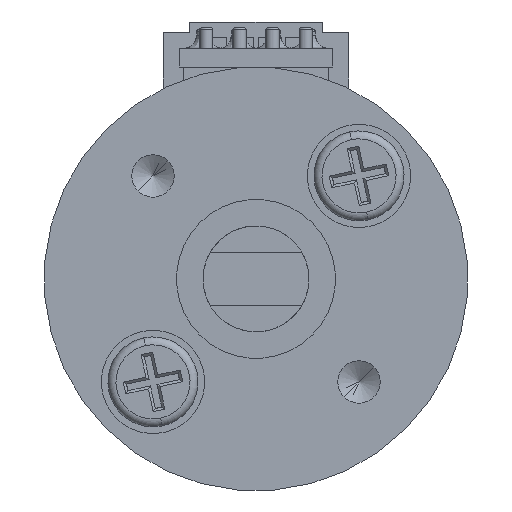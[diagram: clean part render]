
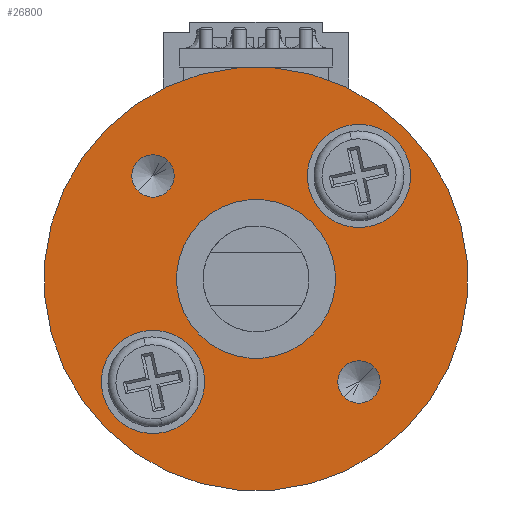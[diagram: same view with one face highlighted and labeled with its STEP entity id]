
A CAD part, front view. The second image highlights one B-rep face of the part: STEP entity #26800.
In plain terms, the highlighted planar face has unit normal (0, -1, 0) as drawn and (1, 0, 0) by its records, which use the part's own axes.
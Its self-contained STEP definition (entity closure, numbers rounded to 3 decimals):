
#216 = DIRECTION ( 'NONE',  ( 0., 0., 1. ) ) ;
#447 = AXIS2_PLACEMENT_3D ( 'NONE', #7499, #16101, #36538 ) ;
#537 = VERTEX_POINT ( 'NONE', #33426 ) ;
#1749 = AXIS2_PLACEMENT_3D ( 'NONE', #23756, #32169, #23380 ) ;
#2068 = CIRCLE ( 'NONE', #1749, 1.95 ) ;
#2591 = EDGE_CURVE ( 'NONE', #537, #20912, #27508, .T. ) ;
#2623 = CARTESIAN_POINT ( 'NONE',  ( 17., -5.5, 0. ) ) ;
#2993 = CARTESIAN_POINT ( 'NONE',  ( 17., 0., 0. ) ) ;
#3374 = CIRCLE ( 'NONE', #29271, 8. ) ;
#3643 = DIRECTION ( 'NONE',  ( -1., 0., 0. ) ) ;
#3937 = ORIENTED_EDGE ( 'NONE', *, *, #19361, .F. ) ;
#3976 = ORIENTED_EDGE ( 'NONE', *, *, #25486, .F. ) ;
#4756 = VERTEX_POINT ( 'NONE', #10022 ) ;
#4859 = CIRCLE ( 'NONE', #30937, 1.95 ) ;
#4982 = VERTEX_POINT ( 'NONE', #25140 ) ;
#5236 = ORIENTED_EDGE ( 'NONE', *, *, #9201, .F. ) ;
#5308 = DIRECTION ( 'NONE',  ( 0., 0., -1. ) ) ;
#5586 = DIRECTION ( 'NONE',  ( 0., 0., 1. ) ) ;
#6032 = EDGE_CURVE ( 'NONE', #20912, #537, #29797, .T. ) ;
#6276 = CARTESIAN_POINT ( 'NONE',  ( 17., 0., 0. ) ) ;
#6390 = EDGE_LOOP ( 'NONE', ( #3976, #34612 ) ) ;
#6692 = ORIENTED_EDGE ( 'NONE', *, *, #22138, .F. ) ;
#7309 = DIRECTION ( 'NONE',  ( 0., 0., -1. ) ) ;
#7499 = CARTESIAN_POINT ( 'NONE',  ( 17., 5.5, 0. ) ) ;
#7708 = VERTEX_POINT ( 'NONE', #14761 ) ;
#7992 = FACE_BOUND ( 'NONE', #6390, .T. ) ;
#8091 = EDGE_LOOP ( 'NONE', ( #3937, #22944 ) ) ;
#8185 = AXIS2_PLACEMENT_3D ( 'NONE', #31185, #13722, #5586 ) ;
#8198 = DIRECTION ( 'NONE',  ( 1., 0., 0. ) ) ;
#8499 = CARTESIAN_POINT ( 'NONE',  ( 17., 0., 3. ) ) ;
#8905 = DIRECTION ( 'NONE',  ( 0., 0., -1. ) ) ;
#8914 = CIRCLE ( 'NONE', #28028, 1.95 ) ;
#9201 = EDGE_CURVE ( 'NONE', #31883, #29953, #2068, .T. ) ;
#9202 = EDGE_LOOP ( 'NONE', ( #20274, #19888 ) ) ;
#9618 = AXIS2_PLACEMENT_3D ( 'NONE', #2993, #17548, #216 ) ;
#9707 = CIRCLE ( 'NONE', #25642, 0.8 ) ;
#9883 = DIRECTION ( 'NONE',  ( 1., 0., 0. ) ) ;
#9976 = AXIS2_PLACEMENT_3D ( 'NONE', #14806, #15180, #32666 ) ;
#10022 = CARTESIAN_POINT ( 'NONE',  ( 17., -5.5, 0.8 ) ) ;
#11876 = DIRECTION ( 'NONE',  ( -1., 0., 0. ) ) ;
#12006 = EDGE_CURVE ( 'NONE', #31088, #22052, #34598, .T. ) ;
#12266 = EDGE_LOOP ( 'NONE', ( #31640, #14888 ) ) ;
#12818 = CARTESIAN_POINT ( 'NONE',  ( 17., 0., -3.55 ) ) ;
#13341 = ORIENTED_EDGE ( 'NONE', *, *, #21810, .F. ) ;
#13722 = DIRECTION ( 'NONE',  ( -1., 0., 0. ) ) ;
#13842 = CARTESIAN_POINT ( 'NONE',  ( 17., 0., -7.45 ) ) ;
#14666 = AXIS2_PLACEMENT_3D ( 'NONE', #6276, #3643, #26679 ) ;
#14761 = CARTESIAN_POINT ( 'NONE',  ( 17., 0., 8. ) ) ;
#14806 = CARTESIAN_POINT ( 'NONE',  ( 17., 5.5, 0. ) ) ;
#14888 = ORIENTED_EDGE ( 'NONE', *, *, #23036, .F. ) ;
#14961 = DIRECTION ( 'NONE',  ( 0., 0., 1. ) ) ;
#15074 = DIRECTION ( 'NONE',  ( -1., 0., 0. ) ) ;
#15180 = DIRECTION ( 'NONE',  ( 1., 0., 0. ) ) ;
#15787 = CARTESIAN_POINT ( 'NONE',  ( 17., 0., -5.5 ) ) ;
#16101 = DIRECTION ( 'NONE',  ( 1., 0., 0. ) ) ;
#17038 = FACE_BOUND ( 'NONE', #9202, .T. ) ;
#17548 = DIRECTION ( 'NONE',  ( -1., 0., 0. ) ) ;
#17556 = DIRECTION ( 'NONE',  ( 0., 0., -1. ) ) ;
#18867 = VERTEX_POINT ( 'NONE', #33265 ) ;
#19361 = EDGE_CURVE ( 'NONE', #7708, #4982, #34734, .T. ) ;
#19836 = AXIS2_PLACEMENT_3D ( 'NONE', #35632, #15074, #14961 ) ;
#19888 = ORIENTED_EDGE ( 'NONE', *, *, #2591, .T. ) ;
#20274 = ORIENTED_EDGE ( 'NONE', *, *, #6032, .T. ) ;
#20669 = CARTESIAN_POINT ( 'NONE',  ( 17., -5.5, 0. ) ) ;
#20690 = VERTEX_POINT ( 'NONE', #12818 ) ;
#20912 = VERTEX_POINT ( 'NONE', #8499 ) ;
#21283 = CARTESIAN_POINT ( 'NONE',  ( 17., 5.5, 0.8 ) ) ;
#21440 = EDGE_CURVE ( 'NONE', #20690, #34926, #4859, .T. ) ;
#21810 = EDGE_CURVE ( 'NONE', #29953, #31883, #8914, .T. ) ;
#21907 = AXIS2_PLACEMENT_3D ( 'NONE', #2623, #31590, #17556 ) ;
#22052 = VERTEX_POINT ( 'NONE', #27315 ) ;
#22138 = EDGE_CURVE ( 'NONE', #34926, #20690, #27063, .T. ) ;
#22406 = EDGE_CURVE ( 'NONE', #4982, #7708, #3374, .T. ) ;
#22529 = FACE_BOUND ( 'NONE', #31365, .T. ) ;
#22944 = ORIENTED_EDGE ( 'NONE', *, *, #22406, .F. ) ;
#23036 = EDGE_CURVE ( 'NONE', #4756, #18867, #9707, .T. ) ;
#23380 = DIRECTION ( 'NONE',  ( 0., 0., -1. ) ) ;
#23437 = CARTESIAN_POINT ( 'NONE',  ( 17., 0., 0. ) ) ;
#23756 = CARTESIAN_POINT ( 'NONE',  ( 17., 0., 5.5 ) ) ;
#24142 = PLANE ( 'NONE',  #19836 ) ;
#24838 = FACE_BOUND ( 'NONE', #12266, .T. ) ;
#25140 = CARTESIAN_POINT ( 'NONE',  ( 17., 0., -8. ) ) ;
#25186 = EDGE_LOOP ( 'NONE', ( #13341, #5236 ) ) ;
#25486 = EDGE_CURVE ( 'NONE', #22052, #31088, #26354, .T. ) ;
#25642 = AXIS2_PLACEMENT_3D ( 'NONE', #20669, #32175, #8905 ) ;
#25902 = CARTESIAN_POINT ( 'NONE',  ( 17., 0., 3.55 ) ) ;
#25903 = DIRECTION ( 'NONE',  ( 0., 0., -1. ) ) ;
#26354 = CIRCLE ( 'NONE', #447, 0.8 ) ;
#26674 = CARTESIAN_POINT ( 'NONE',  ( 17., 0., 7.45 ) ) ;
#26679 = DIRECTION ( 'NONE',  ( 0., 0., 1. ) ) ;
#26800 = ADVANCED_FACE ( 'NONE', ( #24838, #7992, #37170, #36691, #17038, #22529 ), #24142, .F. ) ;
#27063 = CIRCLE ( 'NONE', #35625, 1.95 ) ;
#27067 = CIRCLE ( 'NONE', #21907, 0.8 ) ;
#27315 = CARTESIAN_POINT ( 'NONE',  ( 17., 5.5, -0.8 ) ) ;
#27508 = CIRCLE ( 'NONE', #14666, 3. ) ;
#27584 = ORIENTED_EDGE ( 'NONE', *, *, #21440, .F. ) ;
#28028 = AXIS2_PLACEMENT_3D ( 'NONE', #34207, #37150, #5308 ) ;
#29271 = AXIS2_PLACEMENT_3D ( 'NONE', #23437, #11876, #32222 ) ;
#29797 = CIRCLE ( 'NONE', #9618, 3. ) ;
#29892 = EDGE_CURVE ( 'NONE', #18867, #4756, #27067, .T. ) ;
#29953 = VERTEX_POINT ( 'NONE', #25902 ) ;
#30937 = AXIS2_PLACEMENT_3D ( 'NONE', #37602, #8198, #25903 ) ;
#31088 = VERTEX_POINT ( 'NONE', #21283 ) ;
#31185 = CARTESIAN_POINT ( 'NONE',  ( 17., 0., 0. ) ) ;
#31365 = EDGE_LOOP ( 'NONE', ( #6692, #27584 ) ) ;
#31590 = DIRECTION ( 'NONE',  ( 1., 0., 0. ) ) ;
#31640 = ORIENTED_EDGE ( 'NONE', *, *, #29892, .F. ) ;
#31883 = VERTEX_POINT ( 'NONE', #26674 ) ;
#32169 = DIRECTION ( 'NONE',  ( 1., 0., 0. ) ) ;
#32175 = DIRECTION ( 'NONE',  ( 1., 0., 0. ) ) ;
#32222 = DIRECTION ( 'NONE',  ( 0., 0., 1. ) ) ;
#32666 = DIRECTION ( 'NONE',  ( 0., 0., -1. ) ) ;
#33265 = CARTESIAN_POINT ( 'NONE',  ( 17., -5.5, -0.8 ) ) ;
#33426 = CARTESIAN_POINT ( 'NONE',  ( 17., 0., -3. ) ) ;
#34207 = CARTESIAN_POINT ( 'NONE',  ( 17., 0., 5.5 ) ) ;
#34598 = CIRCLE ( 'NONE', #9976, 0.8 ) ;
#34612 = ORIENTED_EDGE ( 'NONE', *, *, #12006, .F. ) ;
#34734 = CIRCLE ( 'NONE', #8185, 8. ) ;
#34926 = VERTEX_POINT ( 'NONE', #13842 ) ;
#35625 = AXIS2_PLACEMENT_3D ( 'NONE', #15787, #9883, #7309 ) ;
#35632 = CARTESIAN_POINT ( 'NONE',  ( 17., 8., 0. ) ) ;
#36538 = DIRECTION ( 'NONE',  ( 0., 0., -1. ) ) ;
#36691 = FACE_OUTER_BOUND ( 'NONE', #8091, .T. ) ;
#37150 = DIRECTION ( 'NONE',  ( 1., 0., 0. ) ) ;
#37170 = FACE_BOUND ( 'NONE', #25186, .T. ) ;
#37602 = CARTESIAN_POINT ( 'NONE',  ( 17., 0., -5.5 ) ) ;
